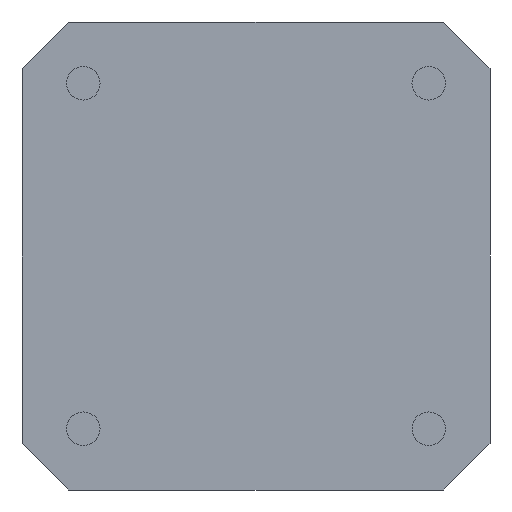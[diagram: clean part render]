
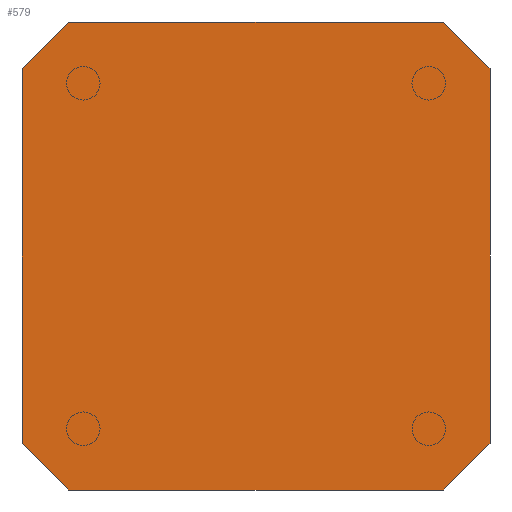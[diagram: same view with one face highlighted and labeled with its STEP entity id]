
A CAD part, front view. The second image highlights one B-rep face of the part: STEP entity #579.
In plain terms, the highlighted planar face has unit normal (0, -1, 0).
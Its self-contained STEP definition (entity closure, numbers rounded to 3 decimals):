
#26 = DIRECTION ( 'NONE',  ( -0.707, 0., 0.707 ) ) ;
#141 = DIRECTION ( 'NONE',  ( 0., 0., 1. ) ) ;
#191 = EDGE_CURVE ( 'NONE', #1363, #460, #1300, .T. ) ;
#239 = CARTESIAN_POINT ( 'NONE',  ( 4.2, -37., -42. ) ) ;
#243 = CARTESIAN_POINT ( 'NONE',  ( 4.2, -37., 0. ) ) ;
#273 = VERTEX_POINT ( 'NONE', #587 ) ;
#285 = DIRECTION ( 'NONE',  ( 1., 0., 0. ) ) ;
#363 = CARTESIAN_POINT ( 'NONE',  ( 0., -37., -37.8 ) ) ;
#416 = EDGE_CURVE ( 'NONE', #1334, #1082, #585, .T. ) ;
#423 = LINE ( 'NONE', #875, #675 ) ;
#440 = LINE ( 'NONE', #513, #692 ) ;
#460 = VERTEX_POINT ( 'NONE', #1070 ) ;
#496 = ORIENTED_EDGE ( 'NONE', *, *, #1131, .T. ) ;
#498 = CARTESIAN_POINT ( 'NONE',  ( 0., -37., -4.2 ) ) ;
#507 = DIRECTION ( 'NONE',  ( 0.707, 0., 0.707 ) ) ;
#513 = CARTESIAN_POINT ( 'NONE',  ( 37.8, -37., -42. ) ) ;
#538 = CARTESIAN_POINT ( 'NONE',  ( 42., -37., -4.2 ) ) ;
#572 = DIRECTION ( 'NONE',  ( 0.707, 0., -0.707 ) ) ;
#579 = ADVANCED_FACE ( 'NONE', ( #1066 ), #984, .T. ) ;
#583 = ORIENTED_EDGE ( 'NONE', *, *, #191, .F. ) ;
#585 = LINE ( 'NONE', #670, #1121 ) ;
#587 = CARTESIAN_POINT ( 'NONE',  ( 0., -37., -4.2 ) ) ;
#616 = CARTESIAN_POINT ( 'NONE',  ( 37.8, -37., -42. ) ) ;
#640 = ORIENTED_EDGE ( 'NONE', *, *, #1192, .F. ) ;
#641 = VERTEX_POINT ( 'NONE', #616 ) ;
#645 = ORIENTED_EDGE ( 'NONE', *, *, #909, .F. ) ;
#662 = ORIENTED_EDGE ( 'NONE', *, *, #690, .F. ) ;
#670 = CARTESIAN_POINT ( 'NONE',  ( 4.2, -37., -42. ) ) ;
#671 = DIRECTION ( 'NONE',  ( -1., 0., 0. ) ) ;
#675 = VECTOR ( 'NONE', #671, 1000. ) ;
#690 = EDGE_CURVE ( 'NONE', #1045, #1354, #1297, .T. ) ;
#692 = VECTOR ( 'NONE', #507, 1000. ) ;
#693 = ORIENTED_EDGE ( 'NONE', *, *, #697, .T. ) ;
#697 = EDGE_CURVE ( 'NONE', #641, #460, #440, .T. ) ;
#713 = DIRECTION ( 'NONE',  ( -0.707, 0., -0.707 ) ) ;
#829 = CARTESIAN_POINT ( 'NONE',  ( 0., -37., 0. ) ) ;
#848 = DIRECTION ( 'NONE',  ( 0., -1., 0. ) ) ;
#862 = CARTESIAN_POINT ( 'NONE',  ( 0., -37., 0. ) ) ;
#875 = CARTESIAN_POINT ( 'NONE',  ( 0., -37., -42. ) ) ;
#898 = CARTESIAN_POINT ( 'NONE',  ( 37.8, -37., 0. ) ) ;
#909 = EDGE_CURVE ( 'NONE', #641, #1082, #423, .T. ) ;
#918 = EDGE_LOOP ( 'NONE', ( #693, #583, #1385, #662, #496, #640, #983, #645 ) ) ;
#958 = VECTOR ( 'NONE', #26, 1000. ) ;
#968 = DIRECTION ( 'NONE',  ( 0., 0., -1. ) ) ;
#983 = ORIENTED_EDGE ( 'NONE', *, *, #416, .T. ) ;
#984 = PLANE ( 'NONE',  #1182 ) ;
#997 = DIRECTION ( 'NONE',  ( 0., 0., -1. ) ) ;
#1007 = VECTOR ( 'NONE', #997, 1000. ) ;
#1036 = VECTOR ( 'NONE', #141, 1000. ) ;
#1045 = VERTEX_POINT ( 'NONE', #243 ) ;
#1051 = EDGE_CURVE ( 'NONE', #1363, #1354, #1246, .T. ) ;
#1066 = FACE_OUTER_BOUND ( 'NONE', #918, .T. ) ;
#1070 = CARTESIAN_POINT ( 'NONE',  ( 42., -37., -37.8 ) ) ;
#1072 = VECTOR ( 'NONE', #713, 1000. ) ;
#1082 = VERTEX_POINT ( 'NONE', #239 ) ;
#1121 = VECTOR ( 'NONE', #572, 1000. ) ;
#1127 = CARTESIAN_POINT ( 'NONE',  ( 42., -37., 0. ) ) ;
#1131 = EDGE_CURVE ( 'NONE', #1045, #273, #1357, .T. ) ;
#1182 = AXIS2_PLACEMENT_3D ( 'NONE', #862, #848, #968 ) ;
#1192 = EDGE_CURVE ( 'NONE', #1334, #273, #1325, .T. ) ;
#1246 = LINE ( 'NONE', #898, #958 ) ;
#1262 = VECTOR ( 'NONE', #285, 1000. ) ;
#1297 = LINE ( 'NONE', #829, #1262 ) ;
#1300 = LINE ( 'NONE', #1127, #1007 ) ;
#1325 = LINE ( 'NONE', #1355, #1036 ) ;
#1334 = VERTEX_POINT ( 'NONE', #363 ) ;
#1354 = VERTEX_POINT ( 'NONE', #1367 ) ;
#1355 = CARTESIAN_POINT ( 'NONE',  ( 0., -37., 0. ) ) ;
#1357 = LINE ( 'NONE', #498, #1072 ) ;
#1363 = VERTEX_POINT ( 'NONE', #538 ) ;
#1367 = CARTESIAN_POINT ( 'NONE',  ( 37.8, -37., 0. ) ) ;
#1385 = ORIENTED_EDGE ( 'NONE', *, *, #1051, .T. ) ;
